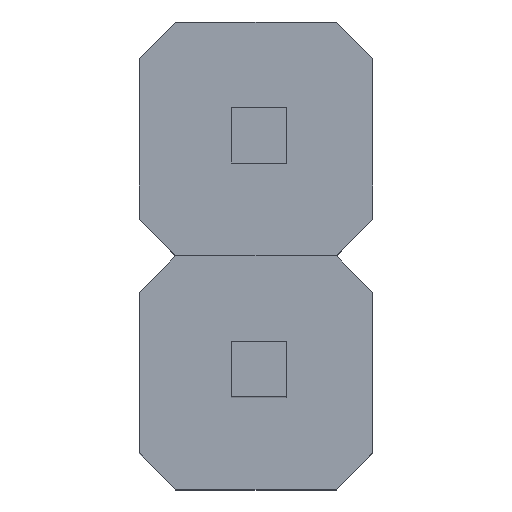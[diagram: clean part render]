
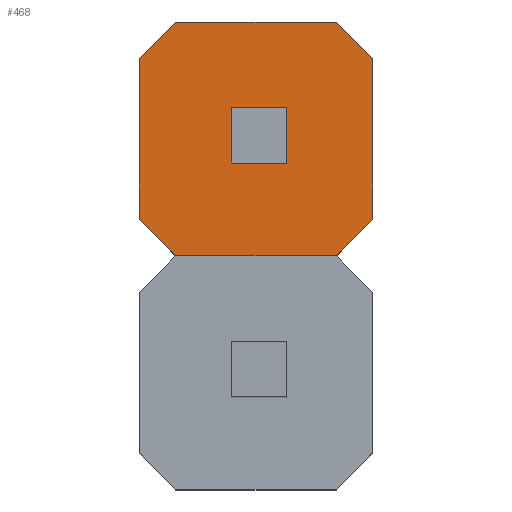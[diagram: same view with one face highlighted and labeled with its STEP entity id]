
A CAD part, top view. The second image highlights one B-rep face of the part: STEP entity #468.
In plain terms, the highlighted planar face has unit normal (0, 0, 1).
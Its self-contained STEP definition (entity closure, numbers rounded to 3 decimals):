
#280 = EDGE_CURVE('',#281,#283,#285,.T.);
#281 = VERTEX_POINT('',#282);
#282 = CARTESIAN_POINT('',(-1.27,-0.87,1.54));
#283 = VERTEX_POINT('',#284);
#284 = CARTESIAN_POINT('',(-1.27,0.87,1.54));
#285 = LINE('',#286,#287);
#286 = CARTESIAN_POINT('',(-1.27,-1.27,1.54));
#287 = VECTOR('',#288,1.);
#288 = DIRECTION('',(0.,1.,0.));
#313 = EDGE_CURVE('',#281,#314,#316,.T.);
#314 = VERTEX_POINT('',#315);
#315 = CARTESIAN_POINT('',(-0.87,-1.27,1.54));
#316 = LINE('',#317,#318);
#317 = CARTESIAN_POINT('',(-1.07,-1.07,1.54));
#318 = VECTOR('',#319,1.);
#319 = DIRECTION('',(0.707,-0.707,0.));
#337 = EDGE_CURVE('',#283,#338,#340,.T.);
#338 = VERTEX_POINT('',#339);
#339 = CARTESIAN_POINT('',(-0.87,1.27,1.54));
#340 = LINE('',#341,#342);
#341 = CARTESIAN_POINT('',(-1.705,0.435,1.54));
#342 = VECTOR('',#343,1.);
#343 = DIRECTION('',(0.707,0.707,0.));
#361 = EDGE_CURVE('',#314,#362,#364,.T.);
#362 = VERTEX_POINT('',#363);
#363 = CARTESIAN_POINT('',(0.87,-1.27,1.54));
#364 = LINE('',#365,#366);
#365 = CARTESIAN_POINT('',(-1.27,-1.27,1.54));
#366 = VECTOR('',#367,1.);
#367 = DIRECTION('',(1.,0.,0.));
#385 = EDGE_CURVE('',#338,#386,#388,.T.);
#386 = VERTEX_POINT('',#387);
#387 = CARTESIAN_POINT('',(0.87,1.27,1.54));
#388 = LINE('',#389,#390);
#389 = CARTESIAN_POINT('',(-1.27,1.27,1.54));
#390 = VECTOR('',#391,1.);
#391 = DIRECTION('',(1.,0.,0.));
#409 = VERTEX_POINT('',#410);
#410 = CARTESIAN_POINT('',(1.27,-0.87,1.54));
#416 = EDGE_CURVE('',#409,#362,#417,.T.);
#417 = LINE('',#418,#419);
#418 = CARTESIAN_POINT('',(0.435,-1.705,1.54));
#419 = VECTOR('',#420,1.);
#420 = DIRECTION('',(-0.707,-0.707,0.));
#433 = VERTEX_POINT('',#434);
#434 = CARTESIAN_POINT('',(1.27,0.87,1.54));
#440 = EDGE_CURVE('',#433,#386,#441,.T.);
#441 = LINE('',#442,#443);
#442 = CARTESIAN_POINT('',(1.07,1.07,1.54));
#443 = VECTOR('',#444,1.);
#444 = DIRECTION('',(-0.707,0.707,0.));
#455 = EDGE_CURVE('',#409,#433,#456,.T.);
#456 = LINE('',#457,#458);
#457 = CARTESIAN_POINT('',(1.27,-1.27,1.54));
#458 = VECTOR('',#459,1.);
#459 = DIRECTION('',(0.,1.,0.));
#468 = ADVANCED_FACE('',(#469,#479),#513,.T.);
#469 = FACE_BOUND('',#470,.T.);
#470 = EDGE_LOOP('',(#471,#472,#473,#474,#475,#476,#477,#478));
#471 = ORIENTED_EDGE('',*,*,#280,.F.);
#472 = ORIENTED_EDGE('',*,*,#313,.T.);
#473 = ORIENTED_EDGE('',*,*,#361,.T.);
#474 = ORIENTED_EDGE('',*,*,#416,.F.);
#475 = ORIENTED_EDGE('',*,*,#455,.T.);
#476 = ORIENTED_EDGE('',*,*,#440,.T.);
#477 = ORIENTED_EDGE('',*,*,#385,.F.);
#478 = ORIENTED_EDGE('',*,*,#337,.F.);
#479 = FACE_BOUND('',#480,.T.);
#480 = EDGE_LOOP('',(#481,#491,#499,#507));
#481 = ORIENTED_EDGE('',*,*,#482,.F.);
#482 = EDGE_CURVE('',#483,#485,#487,.T.);
#483 = VERTEX_POINT('',#484);
#484 = CARTESIAN_POINT('',(-0.27,0.33,1.54));
#485 = VERTEX_POINT('',#486);
#486 = CARTESIAN_POINT('',(-0.27,-0.27,1.54));
#487 = LINE('',#488,#489);
#488 = CARTESIAN_POINT('',(-0.27,-0.77,1.54));
#489 = VECTOR('',#490,1.);
#490 = DIRECTION('',(0.,-1.,0.));
#491 = ORIENTED_EDGE('',*,*,#492,.T.);
#492 = EDGE_CURVE('',#483,#493,#495,.T.);
#493 = VERTEX_POINT('',#494);
#494 = CARTESIAN_POINT('',(0.33,0.33,1.54));
#495 = LINE('',#496,#497);
#496 = CARTESIAN_POINT('',(-0.77,0.33,1.54));
#497 = VECTOR('',#498,1.);
#498 = DIRECTION('',(1.,0.,0.));
#499 = ORIENTED_EDGE('',*,*,#500,.T.);
#500 = EDGE_CURVE('',#493,#501,#503,.T.);
#501 = VERTEX_POINT('',#502);
#502 = CARTESIAN_POINT('',(0.33,-0.27,1.54));
#503 = LINE('',#504,#505);
#504 = CARTESIAN_POINT('',(0.33,-0.77,1.54));
#505 = VECTOR('',#506,1.);
#506 = DIRECTION('',(0.,-1.,0.));
#507 = ORIENTED_EDGE('',*,*,#508,.F.);
#508 = EDGE_CURVE('',#485,#501,#509,.T.);
#509 = LINE('',#510,#511);
#510 = CARTESIAN_POINT('',(-0.77,-0.27,1.54));
#511 = VECTOR('',#512,1.);
#512 = DIRECTION('',(1.,0.,0.));
#513 = PLANE('',#514);
#514 = AXIS2_PLACEMENT_3D('',#515,#516,#517);
#515 = CARTESIAN_POINT('',(-1.27,-1.27,1.54));
#516 = DIRECTION('',(0.,0.,1.));
#517 = DIRECTION('',(1.,0.,-0.));
